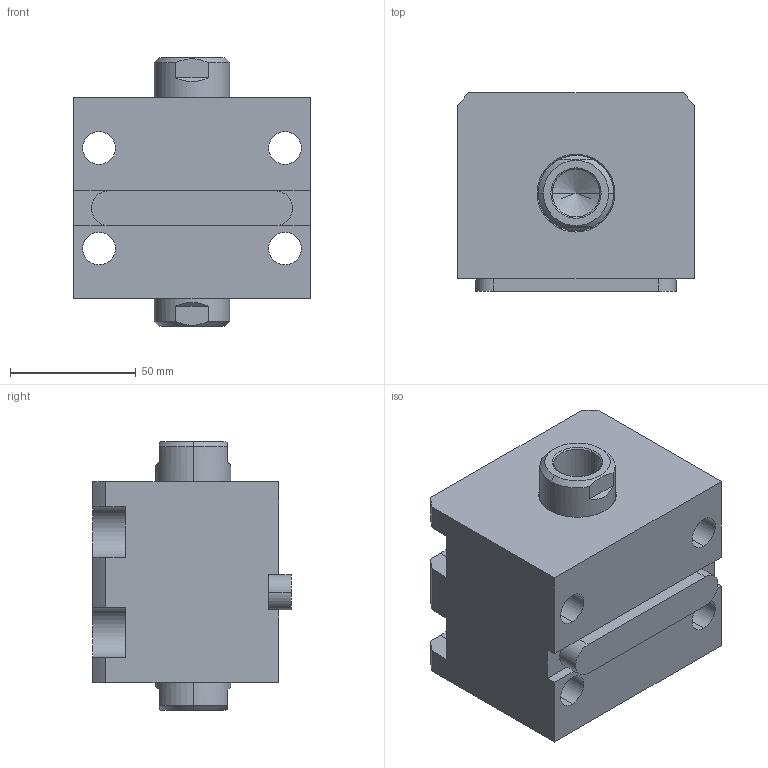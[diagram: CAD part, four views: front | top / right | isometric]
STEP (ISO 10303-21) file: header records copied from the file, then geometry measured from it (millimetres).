
FILE_DESCRIPTION (( 'STEP AP203' ), '1' );
FILE_NAME ('CHTB-LW50-5N.STEP', '2018-05-18T02:10:56', ( '' ), ( '' ), 'SwSTEP 2.0', 'SolidWorks 2015', '' );
FILE_SCHEMA (( 'CONFIG_CONTROL_DESIGN' ));
Length unit declared in the file: millimetre
Products named in the file (4): 活塞杆LW50-5N; 掛极LW50-5N; CHTB-LW50-5N; CHTM-SDMA50QG
Assembly tree (3 placements, depth 2):
  CHTB-LW50-5N
    掛极LW50-5N
    活塞杆LW50-5N
    CHTM-SDMA50QG
Bounding box: 94 x 79 x 107 mm (x, y, z)
Volume: 497014.2 mm3; surface area: 97545.6 mm2
Topology: 3 solids, 3 shells, 221 faces, 588 edges, 385 vertices
Faces by surface type: cylinder 102, plane 58, cone 31, torus 16, bspline 14
Entity records: 11831 total; most frequent: CARTESIAN_POINT 6126, ORIENTED_EDGE 1160, DIRECTION 1056, EDGE_CURVE 580, AXIS2_PLACEMENT_3D 416, VERTEX_POINT 385, EDGE_LOOP 257, VECTOR 224
